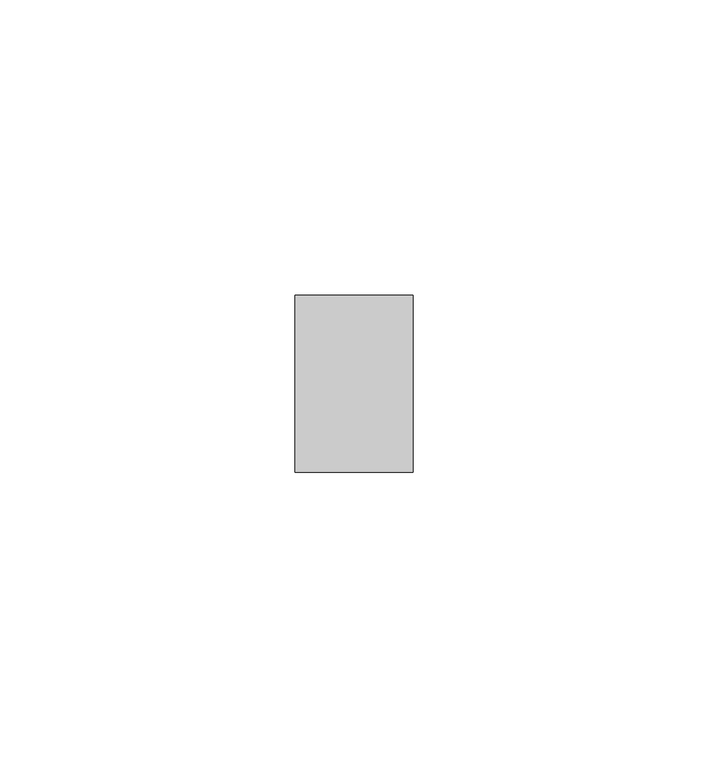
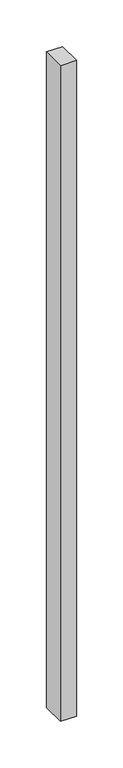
"""IFC4 building model written with IfcOpenShell, lengths in millimetres: member geometry, Прямоугольный импост : Квадрат 10 мм - Зазор между навесными плитами."""

import ifcopenshell
import ifcopenshell.guid

model = None  # the IFC model being written
_history = None  # IfcOwnerHistory: only IFC2X3 demands one
_inside = {}  # id of a spatial element -> (the spatial element, [elements in it])
_under = {}  # id of a project, library or spatial element -> (it, [spatial elements below it])
_declared = {}  # id of a project -> (the project, [libraries it declares])
_typed = {}  # id of a type object -> (the type object, [elements of that type])
_made_of = {}  # id of a material, layer set ... -> (it, [elements and type objects made of it])


def new_model(schema):
    """Start an empty IFC model of exactly this schema.

    Asked for "IFC4X3", IfcOpenShell would pick the latest addendum, in which some entities
    have other attributes; the version numbers below select the first issue.
    IFC2X3 requires an IfcOwnerHistory on every rooted entity: one is made here for all.
    """
    global model, _history
    if schema == "IFC4X3":
        model = ifcopenshell.file(schema_version=(4, 3, 0, 0))
    else:
        model = ifcopenshell.file(schema=schema)
    _inside.clear()
    _under.clear()
    _declared.clear()
    _typed.clear()
    _made_of.clear()
    _history = None
    if model.schema == "IFC2X3":
        org = make("IfcOrganization", Name="unknown")
        user = make(
            "IfcPersonAndOrganization",
            ThePerson=make("IfcPerson", FamilyName="unknown"),
            TheOrganization=org,
        )
        app = make(
            "IfcApplication",
            ApplicationDeveloper=org,
            Version="unknown",
            ApplicationFullName="unknown",
            ApplicationIdentifier="unknown",
        )
        _history = make(
            "IfcOwnerHistory",
            OwningUser=user,
            OwningApplication=app,
            ChangeAction="ADDED",
            CreationDate=0,
        )
    return model


def make(cls, **values):
    """One entity of the class cls with the attributes given. An attribute that is None is left unset."""
    return model.create_entity(
        cls, **{name: value for name, value in values.items() if value is not None}
    )


def rooted(cls, **values):
    """An entity with a GlobalId (a new one), such as an element, a storey or a relation."""
    return make(cls, GlobalId=ifcopenshell.guid.new(), OwnerHistory=_history, **values)


def si_unit(unit_type, name, prefix=None):
    """IfcSIUnit, for example si_unit("LENGTHUNIT", "METRE", prefix="MILLI")."""
    return make("IfcSIUnit", UnitType=unit_type, Prefix=prefix, Name=name)


def assignment(units):
    """IfcUnitAssignment: the units of a project."""
    return None if units is None else make("IfcUnitAssignment", Units=units)


def point(xyz):
    """IfcCartesianPoint."""
    return None if xyz is None else make("IfcCartesianPoint", Coordinates=xyz)


def direction(xyz):
    """IfcDirection."""
    return None if xyz is None else make("IfcDirection", DirectionRatios=xyz)


def frame(location, z_axis=None, x_axis=None):
    """IfcAxis2Placement3D, a coordinate frame: its origin and axes. An axis left out is left unset."""
    return make(
        "IfcAxis2Placement3D",
        Location=point(location),
        Axis=direction(z_axis),
        RefDirection=direction(x_axis),
    )


def origin():
    """The frame at (0, 0, 0) with its axes left unset."""
    return frame((0.0, 0.0, 0.0))


def place(relative_to, where):
    """IfcLocalPlacement: puts the frame where relative to a parent placement (None: the world)."""
    return make(
        "IfcLocalPlacement", PlacementRelTo=relative_to, RelativePlacement=where
    )


def context(
    kind, dimensions, precision=None, world=None, true_north=None, identifier=None
):
    """IfcGeometricRepresentationContext, for example the 3D "Model" context."""
    return make(
        "IfcGeometricRepresentationContext",
        ContextIdentifier=identifier,
        ContextType=kind,
        CoordinateSpaceDimension=dimensions,
        Precision=precision,
        WorldCoordinateSystem=world,
        TrueNorth=true_north,
    )


def project(units=None, contexts=None):
    """IfcProject with its units and contexts."""
    return rooted(
        "IfcProject",
        Name="project",
        RepresentationContexts=contexts,
        UnitsInContext=assignment(units),
    )


def spatial(cls, under=None, at=None, **own):
    """A site, building, storey or space (cls), placed at a placement, below another one or the project."""
    s = rooted(cls, ObjectPlacement=at, **own)
    if under is not None:
        _under.setdefault(under.id(), (under, []))[1].append(s)
    return s


def polyline(points):
    """IfcPolyline through the points."""
    return make("IfcPolyline", Points=[point(p) for p in points])


def outline(outer, holes=None, kind="AREA"):
    """IfcArbitraryClosedProfileDef: a profile drawn as a closed curve; with holes, ...WithVoids."""
    if holes is None:
        return make("IfcArbitraryClosedProfileDef", ProfileType=kind, OuterCurve=outer)
    return make(
        "IfcArbitraryProfileDefWithVoids",
        ProfileType=kind,
        OuterCurve=outer,
        InnerCurves=holes,
    )


def extrude(swept, where, along, depth):
    """IfcExtrudedAreaSolid: the profile swept, set in the frame where, extruded along a direction by depth."""
    return make(
        "IfcExtrudedAreaSolid",
        SweptArea=swept,
        Position=where,
        ExtrudedDirection=direction(along),
        Depth=depth,
    )


def shape(context_of_items, identifier, shape_type, items):
    """IfcShapeRepresentation: the items that make up one representation, for example the "Body"."""
    return make(
        "IfcShapeRepresentation",
        ContextOfItems=context_of_items,
        RepresentationIdentifier=identifier,
        RepresentationType=shape_type,
        Items=items,
    )


def source(mapping_origin, context_of_items, identifier, shape_type, items):
    """IfcRepresentationMap: a shape defined once, which mapped items show again and again."""
    return make(
        "IfcRepresentationMap",
        MappingOrigin=mapping_origin,
        MappedRepresentation=shape(context_of_items, identifier, shape_type, items),
    )


def transform(
    local_origin,
    x_axis=None,
    y_axis=None,
    z_axis=None,
    scale=None,
    scale2=None,
    scale3=None,
    uniform=True,
):
    """IfcCartesianTransformationOperator3D, or its non-uniform kind. x_axis, y_axis, z_axis: its Axis1, 2, 3."""
    if uniform:
        return make(
            "IfcCartesianTransformationOperator3D",
            Axis1=direction(x_axis),
            Axis2=direction(y_axis),
            LocalOrigin=point(local_origin),
            Scale=scale,
            Axis3=direction(z_axis),
        )
    return make(
        "IfcCartesianTransformationOperator3DnonUniform",
        Axis1=direction(x_axis),
        Axis2=direction(y_axis),
        LocalOrigin=point(local_origin),
        Scale=scale,
        Axis3=direction(z_axis),
        Scale2=scale2,
        Scale3=scale3,
    )


def mapped(mapping_source, mapping_target):
    """IfcMappedItem: shows the shape of a source again, moved by a transform."""
    return make(
        "IfcMappedItem", MappingSource=mapping_source, MappingTarget=mapping_target
    )


def made_of(thing, what):
    """Note that an element or type object is made of a material, layer set ...; save() writes the relation."""
    if what is not None:
        _made_of.setdefault(what.id(), (what, []))[1].append(thing)
    return thing


def element(
    cls,
    number,
    at=None,
    inside=None,
    cuts=None,
    type_object=None,
    material=None,
    context=None,
    identifier="Body",
    shape_type=None,
    held_by="IfcProductDefinitionShape",
    body=None,
    shapes=None,
    **own,
):
    """One element of the class cls, such as IfcWall. Its Tag is "e" and its number.

    at: its placement. inside: the storey or other place that contains it. cuts: it is an
    opening in that element (IfcRelVoidsElement). A single representation is given by context,
    identifier, shape_type and body (its items); several are given by shapes. held_by: the class
    of the entity that holds the representations. save() writes the other relations.
    """
    e = rooted(cls, Tag="e%d" % number, ObjectPlacement=at, **own)
    if body is not None:
        shapes = [shape(context, identifier, shape_type, body)]
    if shapes is not None:
        e.Representation = make(held_by, Representations=shapes)
    if inside is not None:
        _inside.setdefault(inside.id(), (inside, []))[1].append(e)
    if cuts is not None:
        rooted(
            "IfcRelVoidsElement", RelatingBuildingElement=cuts, RelatedOpeningElement=e
        )
    if type_object is not None:
        _typed.setdefault(type_object.id(), (type_object, []))[1].append(e)
    return made_of(e, material)


def aggregate(whole, parts):
    """IfcRelAggregates: a whole, such as a stair, and the parts it consists of."""
    return rooted("IfcRelAggregates", RelatingObject=whole, RelatedObjects=parts)


def save(model, path):
    """Write the relations noted so far, then the file.

    IfcRelAggregates (storeys below a building ...), IfcRelContainedInSpatialStructure (elements
    in a storey), IfcRelDefinesByType, IfcRelAssociatesMaterial and IfcRelDeclares: one each for
    every whole, place, type object, material and project.
    """
    for whole, parts in _under.values():
        aggregate(whole, parts)
    for where, things in _inside.values():
        rooted(
            "IfcRelContainedInSpatialStructure",
            RelatedElements=things,
            RelatingStructure=where,
        )
    for kind, things in _typed.values():
        rooted("IfcRelDefinesByType", RelatedObjects=things, RelatingType=kind)
    for what, things in _made_of.values():
        rooted("IfcRelAssociatesMaterial", RelatedObjects=things, RelatingMaterial=what)
    for by, libraries in _declared.values():
        rooted("IfcRelDeclares", RelatingContext=by, RelatedDefinitions=libraries)
    model.write(path)


def member_46b41ff0(model_context):
    return source(origin(), model_context, "Body", "SweptSolid", [
        extrude(outline(polyline([(0.0, 15.0), (0.0, -15.0), (-20.0, -15.0), (-20.0, 15.0), (0.0, 15.0)])), frame((0.0, 0.0, -860.0), z_axis=(0.0, 0.0, 1.0), x_axis=(1.0, 0.0, 0.0)), (0.0, 0.0, 1.0), 860.0),
    ])


if __name__ == "__main__":
    model = new_model("IFC4")
    model_context = context("Model", 3, world=origin())
    ifc_project = project(units=[si_unit("LENGTHUNIT", "METRE", prefix="MILLI")], contexts=[model_context])
    site = spatial("IfcSite", under=ifc_project)
    building = spatial("IfcBuilding", under=site)
    placement = place(None, origin())
    member_shape = member_46b41ff0(model_context)
    element("IfcMember", 1, ObjectType="Прямоугольный импост : Квадрат 10 мм - Зазор между навесными плитами", at=placement, inside=building, context=model_context, shape_type="MappedRepresentation", body=[
        mapped(member_shape, transform((0.0, 0.0, 0.0), x_axis=(1.0, 0.0, 0.0), y_axis=(0.0, 1.0, 0.0), z_axis=(0.0, 0.0, 1.0))),
    ])
    save(model, "model.ifc")
